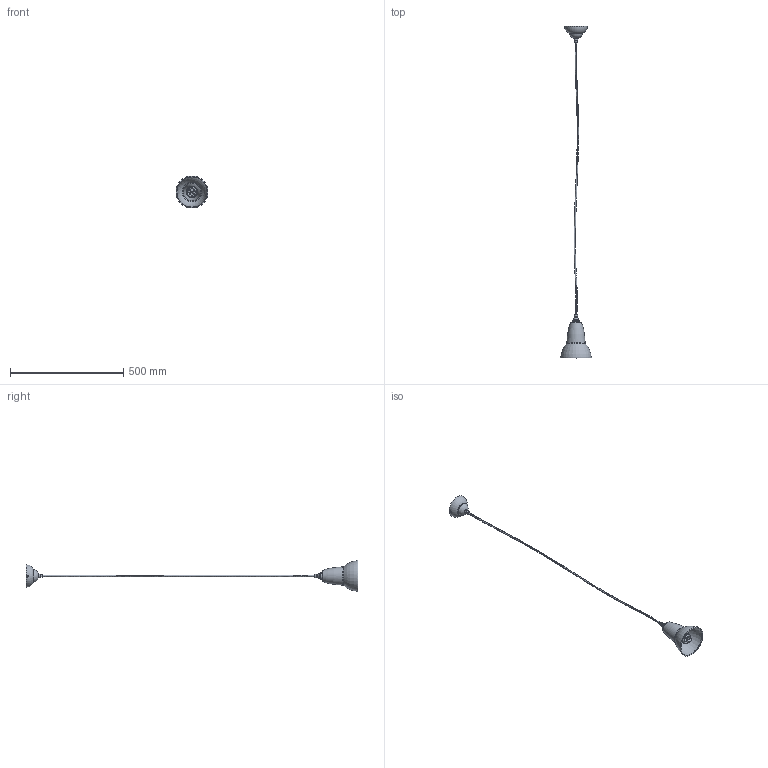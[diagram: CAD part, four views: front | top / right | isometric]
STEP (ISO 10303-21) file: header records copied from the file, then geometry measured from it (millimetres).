
FILE_DESCRIPTION (( 'STEP AP214' ), '1' );
FILE_NAME ('Duo_Pendant_Assembly_DF_01.STEP', '2014-10-28T11:12:37', ( '' ), ( '' ), 'SwSTEP 2.0', 'SolidWorks 2014', '' );
FILE_SCHEMA (( 'AUTOMOTIVE_DESIGN' ));
Length unit declared in the file: millimetre
Products named in the file (1): Duo_Pendant_Assembly_DF_01
Bounding box: 140.97 x 1464.5 x 140.97 mm (x, y, z)
Volume: 445287.5 mm3; surface area: 172114.1 mm2
Topology: 1 solids, 3 shells, 261 faces, 649 edges, 423 vertices
Faces by surface type: plane 123, bspline 60, cylinder 39, torus 25, cone 12, sphere 2
Full cylindrical faces by diameter (mm): 8 x2, 13.335 x2, 15 x2, 25 x1, 28.575 x1, 30 x1, 37.5 x1, 38.1 x1, 135 x1
Entity records: 11521 total; most frequent: CARTESIAN_POINT 5778, ORIENTED_EDGE 1168, DIRECTION 927, EDGE_CURVE 584, VERTEX_POINT 403, AXIS2_PLACEMENT_3D 359, EDGE_LOOP 349, FACE_OUTER_BOUND 302
